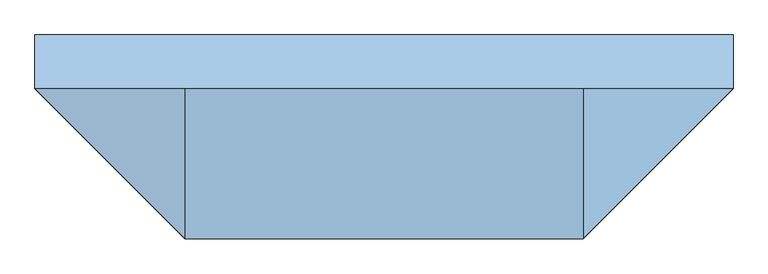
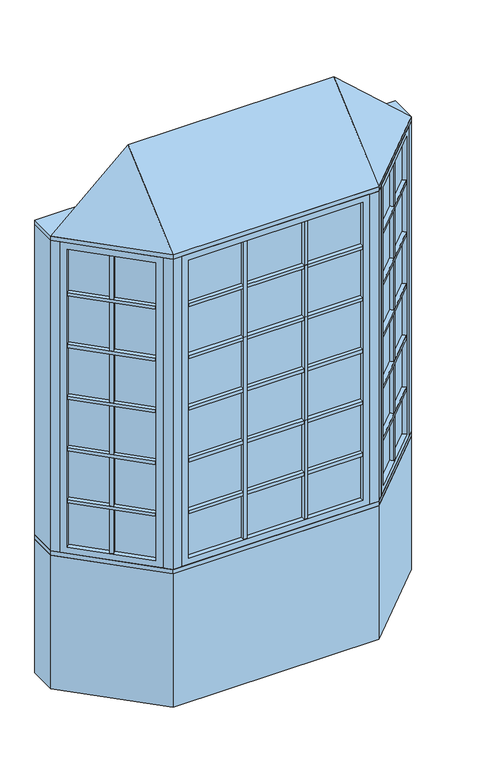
"""IFC4 building model written with IfcOpenShell, lengths in millimetres: window geometry, Pollard_Windows_Tudor Casement Bows and Bays : AML-BAY 45 AFR0518-10-500_GC."""

import ifcopenshell
import ifcopenshell.guid

model = None  # the IFC model being written
_history = None  # IfcOwnerHistory: only IFC2X3 demands one
_inside = {}  # id of a spatial element -> (the spatial element, [elements in it])
_under = {}  # id of a project, library or spatial element -> (it, [spatial elements below it])
_declared = {}  # id of a project -> (the project, [libraries it declares])
_typed = {}  # id of a type object -> (the type object, [elements of that type])
_made_of = {}  # id of a material, layer set ... -> (it, [elements and type objects made of it])


def new_model(schema):
    """Start an empty IFC model of exactly this schema.

    Asked for "IFC4X3", IfcOpenShell would pick the latest addendum, in which some entities
    have other attributes; the version numbers below select the first issue.
    IFC2X3 requires an IfcOwnerHistory on every rooted entity: one is made here for all.
    """
    global model, _history
    if schema == "IFC4X3":
        model = ifcopenshell.file(schema_version=(4, 3, 0, 0))
    else:
        model = ifcopenshell.file(schema=schema)
    _inside.clear()
    _under.clear()
    _declared.clear()
    _typed.clear()
    _made_of.clear()
    _history = None
    if model.schema == "IFC2X3":
        org = make("IfcOrganization", Name="unknown")
        user = make(
            "IfcPersonAndOrganization",
            ThePerson=make("IfcPerson", FamilyName="unknown"),
            TheOrganization=org,
        )
        app = make(
            "IfcApplication",
            ApplicationDeveloper=org,
            Version="unknown",
            ApplicationFullName="unknown",
            ApplicationIdentifier="unknown",
        )
        _history = make(
            "IfcOwnerHistory",
            OwningUser=user,
            OwningApplication=app,
            ChangeAction="ADDED",
            CreationDate=0,
        )
    return model


def make(cls, **values):
    """One entity of the class cls with the attributes given. An attribute that is None is left unset."""
    return model.create_entity(
        cls, **{name: value for name, value in values.items() if value is not None}
    )


def rooted(cls, **values):
    """An entity with a GlobalId (a new one), such as an element, a storey or a relation."""
    return make(cls, GlobalId=ifcopenshell.guid.new(), OwnerHistory=_history, **values)


def si_unit(unit_type, name, prefix=None):
    """IfcSIUnit, for example si_unit("LENGTHUNIT", "METRE", prefix="MILLI")."""
    return make("IfcSIUnit", UnitType=unit_type, Prefix=prefix, Name=name)


def assignment(units):
    """IfcUnitAssignment: the units of a project."""
    return None if units is None else make("IfcUnitAssignment", Units=units)


def point(xyz):
    """IfcCartesianPoint."""
    return None if xyz is None else make("IfcCartesianPoint", Coordinates=xyz)


def direction(xyz):
    """IfcDirection."""
    return None if xyz is None else make("IfcDirection", DirectionRatios=xyz)


def frame(location, z_axis=None, x_axis=None):
    """IfcAxis2Placement3D, a coordinate frame: its origin and axes. An axis left out is left unset."""
    return make(
        "IfcAxis2Placement3D",
        Location=point(location),
        Axis=direction(z_axis),
        RefDirection=direction(x_axis),
    )


def origin():
    """The frame at (0, 0, 0) with its axes left unset."""
    return frame((0.0, 0.0, 0.0))


def origin_with_axes():
    """The frame at (0, 0, 0) with the z axis (0, 0, 1) and the x axis (1, 0, 0) written out."""
    return frame((0.0, 0.0, 0.0), z_axis=(0.0, 0.0, 1.0), x_axis=(1.0, 0.0, 0.0))


def place(relative_to, where):
    """IfcLocalPlacement: puts the frame where relative to a parent placement (None: the world)."""
    return make(
        "IfcLocalPlacement", PlacementRelTo=relative_to, RelativePlacement=where
    )


def context(
    kind, dimensions, precision=None, world=None, true_north=None, identifier=None
):
    """IfcGeometricRepresentationContext, for example the 3D "Model" context."""
    return make(
        "IfcGeometricRepresentationContext",
        ContextIdentifier=identifier,
        ContextType=kind,
        CoordinateSpaceDimension=dimensions,
        Precision=precision,
        WorldCoordinateSystem=world,
        TrueNorth=true_north,
    )


def project(units=None, contexts=None):
    """IfcProject with its units and contexts."""
    return rooted(
        "IfcProject",
        Name="project",
        RepresentationContexts=contexts,
        UnitsInContext=assignment(units),
    )


def spatial(cls, under=None, at=None, **own):
    """A site, building, storey or space (cls), placed at a placement, below another one or the project."""
    s = rooted(cls, ObjectPlacement=at, **own)
    if under is not None:
        _under.setdefault(under.id(), (under, []))[1].append(s)
    return s


def polyline(points):
    """IfcPolyline through the points."""
    return make("IfcPolyline", Points=[point(p) for p in points])


def outline(outer, holes=None, kind="AREA"):
    """IfcArbitraryClosedProfileDef: a profile drawn as a closed curve; with holes, ...WithVoids."""
    if holes is None:
        return make("IfcArbitraryClosedProfileDef", ProfileType=kind, OuterCurve=outer)
    return make(
        "IfcArbitraryProfileDefWithVoids",
        ProfileType=kind,
        OuterCurve=outer,
        InnerCurves=holes,
    )


def extrude(swept, where, along, depth):
    """IfcExtrudedAreaSolid: the profile swept, set in the frame where, extruded along a direction by depth."""
    return make(
        "IfcExtrudedAreaSolid",
        SweptArea=swept,
        Position=where,
        ExtrudedDirection=direction(along),
        Depth=depth,
    )


def faces_of(points, faces, orient=None, outer=None):
    """IfcFace entities. A face is a list of loops; a loop is a list of indices into points, from 0.

    orient and outer hold one flag for each loop. By default every Orientation is true, the
    first loop of a face is its IfcFaceOuterBound and the others are IfcFaceBound.
    """
    made = []
    for i, loops in enumerate(faces):
        bounds = []
        for j, loop in enumerate(loops):
            is_outer = j == 0 if outer is None else outer[i][j]
            bounds.append(
                make(
                    "IfcFaceOuterBound" if is_outer else "IfcFaceBound",
                    Bound=make("IfcPolyLoop", Polygon=[points[k] for k in loop]),
                    Orientation=True if orient is None else orient[i][j],
                )
            )
        made.append(make("IfcFace", Bounds=bounds))
    return made


def faceted_brep(points, faces, orient=None, outer=None, voids=None):
    """IfcFacetedBrep: a solid bounded by flat faces; with voids (closed shells), ...WithVoids."""
    shared = [point(p) for p in points]
    hull = make("IfcClosedShell", CfsFaces=faces_of(shared, faces, orient, outer))
    if voids is None:
        return make("IfcFacetedBrep", Outer=hull)
    return make(
        "IfcFacetedBrepWithVoids",
        Outer=hull,
        Voids=[
            make(cls, CfsFaces=faces_of(shared, fs, o, b)) for cls, fs, o, b in voids
        ],
    )


def shape(context_of_items, identifier, shape_type, items):
    """IfcShapeRepresentation: the items that make up one representation, for example the "Body"."""
    return make(
        "IfcShapeRepresentation",
        ContextOfItems=context_of_items,
        RepresentationIdentifier=identifier,
        RepresentationType=shape_type,
        Items=items,
    )


def source(mapping_origin, context_of_items, identifier, shape_type, items):
    """IfcRepresentationMap: a shape defined once, which mapped items show again and again."""
    return make(
        "IfcRepresentationMap",
        MappingOrigin=mapping_origin,
        MappedRepresentation=shape(context_of_items, identifier, shape_type, items),
    )


def transform(
    local_origin,
    x_axis=None,
    y_axis=None,
    z_axis=None,
    scale=None,
    scale2=None,
    scale3=None,
    uniform=True,
):
    """IfcCartesianTransformationOperator3D, or its non-uniform kind. x_axis, y_axis, z_axis: its Axis1, 2, 3."""
    if uniform:
        return make(
            "IfcCartesianTransformationOperator3D",
            Axis1=direction(x_axis),
            Axis2=direction(y_axis),
            LocalOrigin=point(local_origin),
            Scale=scale,
            Axis3=direction(z_axis),
        )
    return make(
        "IfcCartesianTransformationOperator3DnonUniform",
        Axis1=direction(x_axis),
        Axis2=direction(y_axis),
        LocalOrigin=point(local_origin),
        Scale=scale,
        Axis3=direction(z_axis),
        Scale2=scale2,
        Scale3=scale3,
    )


def mapped(mapping_source, mapping_target):
    """IfcMappedItem: shows the shape of a source again, moved by a transform."""
    return make(
        "IfcMappedItem", MappingSource=mapping_source, MappingTarget=mapping_target
    )


def made_of(thing, what):
    """Note that an element or type object is made of a material, layer set ...; save() writes the relation."""
    if what is not None:
        _made_of.setdefault(what.id(), (what, []))[1].append(thing)
    return thing


def element(
    cls,
    number,
    at=None,
    inside=None,
    cuts=None,
    type_object=None,
    material=None,
    context=None,
    identifier="Body",
    shape_type=None,
    held_by="IfcProductDefinitionShape",
    body=None,
    shapes=None,
    **own,
):
    """One element of the class cls, such as IfcWall. Its Tag is "e" and its number.

    at: its placement. inside: the storey or other place that contains it. cuts: it is an
    opening in that element (IfcRelVoidsElement). A single representation is given by context,
    identifier, shape_type and body (its items); several are given by shapes. held_by: the class
    of the entity that holds the representations. save() writes the other relations.
    """
    e = rooted(cls, Tag="e%d" % number, ObjectPlacement=at, **own)
    if body is not None:
        shapes = [shape(context, identifier, shape_type, body)]
    if shapes is not None:
        e.Representation = make(held_by, Representations=shapes)
    if inside is not None:
        _inside.setdefault(inside.id(), (inside, []))[1].append(e)
    if cuts is not None:
        rooted(
            "IfcRelVoidsElement", RelatingBuildingElement=cuts, RelatedOpeningElement=e
        )
    if type_object is not None:
        _typed.setdefault(type_object.id(), (type_object, []))[1].append(e)
    return made_of(e, material)


def aggregate(whole, parts):
    """IfcRelAggregates: a whole, such as a stair, and the parts it consists of."""
    return rooted("IfcRelAggregates", RelatingObject=whole, RelatedObjects=parts)


def save(model, path):
    """Write the relations noted so far, then the file.

    IfcRelAggregates (storeys below a building ...), IfcRelContainedInSpatialStructure (elements
    in a storey), IfcRelDefinesByType, IfcRelAssociatesMaterial and IfcRelDeclares: one each for
    every whole, place, type object, material and project.
    """
    for whole, parts in _under.values():
        aggregate(whole, parts)
    for where, things in _inside.values():
        rooted(
            "IfcRelContainedInSpatialStructure",
            RelatedElements=things,
            RelatingStructure=where,
        )
    for kind, things in _typed.values():
        rooted("IfcRelDefinesByType", RelatedObjects=things, RelatingType=kind)
    for what, things in _made_of.values():
        rooted("IfcRelAssociatesMaterial", RelatedObjects=things, RelatingMaterial=what)
    for by, libraries in _declared.values():
        rooted("IfcRelDeclares", RelatingContext=by, RelatedDefinitions=libraries)
    model.write(path)


def window_69b66f9a(model_context):
    return source(origin(), model_context, "Body", "SolidModel", [
        extrude(outline(polyline([(622.8614193, -437.1108753), (607.3050701, -421.5545261), (915.116171, -113.7434252), (930.6725202, -129.2997743), (622.8614193, -437.1108753)])), frame((0.0, 0.0, 1690.998), z_axis=(0.0, 0.0, 1.0), x_axis=(1.0, 0.0, 0.0)), (0.0, 0.0, 1.0), 18.0),
        extrude(outline(polyline([(603.7129677, -417.9624236), (588.1566185, -402.4060744), (895.9677194, -94.5949735), (911.5240686, -110.1513227), (603.7129677, -417.9624236)])), frame((0.0, 0.0, 1690.998), z_axis=(0.0, 0.0, 1.0), x_axis=(1.0, 0.0, 0.0)), (0.0, 0.0, 1.0), 18.0),
        extrude(outline(polyline([(622.8614193, -437.1108753), (607.3050701, -421.5545261), (915.116171, -113.7434252), (930.6725202, -129.2997743), (622.8614193, -437.1108753)])), frame((0.0, 0.0, 1090.998), z_axis=(0.0, 0.0, 1.0), x_axis=(1.0, 0.0, 0.0)), (0.0, 0.0, 1.0), 18.0),
        extrude(outline(polyline([(603.7129677, -417.9624236), (588.1566185, -402.4060744), (895.9677194, -94.5949735), (911.5240686, -110.1513227), (603.7129677, -417.9624236)])), frame((0.0, 0.0, 1090.998), z_axis=(0.0, 0.0, 1.0), x_axis=(1.0, 0.0, 0.0)), (0.0, 0.0, 1.0), 18.0),
        extrude(outline(polyline([(622.8614193, -437.1108753), (607.3050701, -421.5545261), (915.116171, -113.7434252), (930.6725202, -129.2997743), (622.8614193, -437.1108753)])), frame((0.0, 0.0, 1390.998), z_axis=(0.0, 0.0, 1.0), x_axis=(1.0, 0.0, 0.0)), (0.0, 0.0, 1.0), 18.0),
        extrude(outline(polyline([(603.7129677, -417.9624236), (588.1566185, -402.4060744), (895.9677194, -94.5949735), (911.5240686, -110.1513227), (603.7129677, -417.9624236)])), frame((0.0, 0.0, 1390.998), z_axis=(0.0, 0.0, 1.0), x_axis=(1.0, 0.0, 0.0)), (0.0, 0.0, 1.0), 18.0),
        extrude(outline(polyline([(622.8614193, -437.1108753), (607.3050701, -421.5545261), (915.116171, -113.7434252), (930.6725202, -129.2997743), (622.8614193, -437.1108753)])), frame((0.0, 0.0, 1990.998), z_axis=(0.0, 0.0, 1.0), x_axis=(1.0, 0.0, 0.0)), (0.0, 0.0, 1.0), 18.0),
        extrude(outline(polyline([(603.7129677, -417.9624236), (588.1566185, -402.4060744), (895.9677194, -94.5949735), (911.5240686, -110.1513227), (603.7129677, -417.9624236)])), frame((0.0, 0.0, 1990.998), z_axis=(0.0, 0.0, 1.0), x_axis=(1.0, 0.0, 0.0)), (0.0, 0.0, 1.0), 18.0),
        extrude(outline(polyline([(622.8614193, -437.1108753), (607.3050701, -421.5545261), (915.116171, -113.7434252), (930.6725202, -129.2997743), (622.8614193, -437.1108753)])), frame((0.0, 0.0, 2290.998), z_axis=(0.0, 0.0, 1.0), x_axis=(1.0, 0.0, 0.0)), (0.0, 0.0, 1.0), 18.0),
        extrude(outline(polyline([(603.7129677, -417.9624236), (588.1566185, -402.4060744), (895.9677194, -94.5949735), (911.5240686, -110.1513227), (603.7129677, -417.9624236)])), frame((0.0, 0.0, 2290.998), z_axis=(0.0, 0.0, 1.0), x_axis=(1.0, 0.0, 0.0)), (0.0, 0.0, 1.0), 18.0),
        extrude(outline(polyline([(767.5745816, -261.2850146), (783.1309308, -276.8413638), (770.4030087, -289.5692858), (754.8466595, -274.0129366), (767.5745816, -261.2850146)])), frame((0.0, 0.0, 835.8628), z_axis=(0.0, 0.0, 1.0), x_axis=(1.0, 0.0, 0.0)), (0.0, 0.0, 1.0), 1728.2704),
        extrude(outline(polyline([(763.9824791, -257.6929121), (751.2545571, -270.4208342), (735.6982079, -254.864485), (748.42613, -242.1365629), (763.9824791, -257.6929121)])), frame((0.0, 0.0, 835.8628), z_axis=(0.0, 0.0, 1.0), x_axis=(1.0, 0.0, 0.0)), (0.0, 0.0, 1.0), 1728.2704),
        extrude(outline(polyline([(924.0964271, -104.763169), (598.324814, -430.5347822), (594.7327115, -426.9426797), (920.5043247, -101.1710666), (924.0964271, -104.763169)])), frame((0.0, 0.0, 823.1628), z_axis=(0.0, 0.0, 1.0), x_axis=(1.0, 0.0, 0.0)), (0.0, 0.0, 1.0), 1753.6704),
        faceted_brep([(915.116171, -113.7434252, 835.8628), (933.0766833, -131.7039374, 835.8628), (933.0766833, -131.7039374, 2564.1332), (915.116171, -113.7434252, 2564.1332), (920.5043247, -101.1710666, 823.1628), (924.0964271, -104.763169, 823.1628), (924.0964271, -104.763169, 2576.8332), (920.5043247, -101.1710666, 2576.8332), (893.5635563, -92.1908105, 835.8628), (911.5240686, -110.1513227, 835.8628), (911.5240686, -110.1513227, 2564.1332), (893.5635563, -92.1908105, 2564.1332), (958.4369265, -106.3436941, 799.998), (918.9237996, -66.8305672, 799.998), (918.9237996, -66.8305672, 2599.998), (958.4369265, -106.3436941, 2599.998), (625.2655823, -439.5150383, 2564.1332), (607.3050701, -421.5545261, 2564.1332), (598.324814, -430.5347822, 2576.8332), (594.7327115, -426.9426797, 2576.8332), (603.7129677, -417.9624236, 2564.1332), (585.7524554, -400.0019114, 2564.1332), (560.3922121, -425.3621547, 2599.998), (599.9053391, -464.8752816, 2599.998), (625.2655823, -439.5150383, 835.8628), (607.3050701, -421.5545261, 835.8628), (598.324814, -430.5347822, 823.1628), (594.7327115, -426.9426797, 823.1628), (603.7129677, -417.9624236, 835.8628), (585.7524554, -400.0019114, 835.8628), (560.3922121, -425.3621547, 799.998), (599.9053391, -464.8752816, 799.998)], [[[0, 1, 2, 3]], [[4, 5, 6, 7]], [[8, 9, 10, 11]], [[12, 13, 14, 15]], [[3, 2, 16, 17]], [[7, 6, 18, 19]], [[11, 10, 20, 21]], [[15, 14, 22, 23]], [[17, 16, 24, 25]], [[19, 18, 26, 27]], [[21, 20, 28, 29]], [[23, 22, 30, 31]], [[25, 24, 1, 0]], [[5, 26, 18, 6], [3, 17, 25, 0]], [[27, 26, 5, 4]], [[7, 19, 27, 4], [9, 28, 20, 10]], [[29, 28, 9, 8]], [[13, 30, 22, 14], [11, 21, 29, 8]], [[31, 30, 13, 12]], [[15, 23, 31, 12], [1, 24, 16, 2]]]),
        extrude(outline(polyline([(175.7952, -474.8306207), (175.7952, -496.8306207), (157.7952, -496.8306207), (157.7952, -474.8306207), (175.7952, -474.8306207)])), frame((0.0, 0.0, 835.8628), z_axis=(0.0, 0.0, 1.0), x_axis=(1.0, 0.0, 0.0)), (0.0, 0.0, 1.0), 1728.2704),
        extrude(outline(polyline([(175.7952, -469.7506207), (157.7952, -469.7506207), (157.7952, -447.7506207), (175.7952, -447.7506207), (175.7952, -469.7506207)])), frame((0.0, 0.0, 835.8628), z_axis=(0.0, 0.0, 1.0), x_axis=(1.0, 0.0, 0.0)), (0.0, 0.0, 1.0), 1728.2704),
        extrude(outline(polyline([(-157.7952, -474.8306207), (-157.7952, -496.8306207), (-175.7952, -496.8306207), (-175.7952, -474.8306207), (-157.7952, -474.8306207)])), frame((0.0, 0.0, 835.8628), z_axis=(0.0, 0.0, 1.0), x_axis=(1.0, 0.0, 0.0)), (0.0, 0.0, 1.0), 1728.2704),
        extrude(outline(polyline([(-157.7952, -469.7506207), (-175.7952, -469.7506207), (-175.7952, -447.7506207), (-157.7952, -447.7506207), (-157.7952, -469.7506207)])), frame((0.0, 0.0, 835.8628), z_axis=(0.0, 0.0, 1.0), x_axis=(1.0, 0.0, 0.0)), (0.0, 0.0, 1.0), 1728.2704),
        extrude(outline(polyline([(-478.6852, -496.8306207), (-478.6852, -474.8306207), (478.6852, -474.8306207), (478.6852, -496.8306207), (-478.6852, -496.8306207)])), frame((0.0, 0.0, 1090.998), z_axis=(0.0, 0.0, 1.0), x_axis=(1.0, 0.0, 0.0)), (0.0, 0.0, 1.0), 18.0),
        extrude(outline(polyline([(-478.6852, -469.7506207), (-478.6852, -447.7506207), (478.6852, -447.7506207), (478.6852, -469.7506207), (-478.6852, -469.7506207)])), frame((0.0, 0.0, 1090.998), z_axis=(0.0, 0.0, 1.0), x_axis=(1.0, 0.0, 0.0)), (0.0, 0.0, 1.0), 18.0),
        extrude(outline(polyline([(-478.6852, -496.8306207), (-478.6852, -474.8306207), (478.6852, -474.8306207), (478.6852, -496.8306207), (-478.6852, -496.8306207)])), frame((0.0, 0.0, 1390.998), z_axis=(0.0, 0.0, 1.0), x_axis=(1.0, 0.0, 0.0)), (0.0, 0.0, 1.0), 18.0),
        extrude(outline(polyline([(-478.6852, -469.7506207), (-478.6852, -447.7506207), (478.6852, -447.7506207), (478.6852, -469.7506207), (-478.6852, -469.7506207)])), frame((0.0, 0.0, 1390.998), z_axis=(0.0, 0.0, 1.0), x_axis=(1.0, 0.0, 0.0)), (0.0, 0.0, 1.0), 18.0),
        extrude(outline(polyline([(-478.6852, -496.8306207), (-478.6852, -474.8306207), (478.6852, -474.8306207), (478.6852, -496.8306207), (-478.6852, -496.8306207)])), frame((0.0, 0.0, 1690.998), z_axis=(0.0, 0.0, 1.0), x_axis=(1.0, 0.0, 0.0)), (0.0, 0.0, 1.0), 18.0),
        extrude(outline(polyline([(-478.6852, -469.7506207), (-478.6852, -447.7506207), (478.6852, -447.7506207), (478.6852, -469.7506207), (-478.6852, -469.7506207)])), frame((0.0, 0.0, 1690.998), z_axis=(0.0, 0.0, 1.0), x_axis=(1.0, 0.0, 0.0)), (0.0, 0.0, 1.0), 18.0),
        extrude(outline(polyline([(-478.6852, -496.8306207), (-478.6852, -474.8306207), (478.6852, -474.8306207), (478.6852, -496.8306207), (-478.6852, -496.8306207)])), frame((0.0, 0.0, 1990.998), z_axis=(0.0, 0.0, 1.0), x_axis=(1.0, 0.0, 0.0)), (0.0, 0.0, 1.0), 18.0),
        extrude(outline(polyline([(-478.6852, -469.7506207), (-478.6852, -447.7506207), (478.6852, -447.7506207), (478.6852, -469.7506207), (-478.6852, -469.7506207)])), frame((0.0, 0.0, 1990.998), z_axis=(0.0, 0.0, 1.0), x_axis=(1.0, 0.0, 0.0)), (0.0, 0.0, 1.0), 18.0),
        extrude(outline(polyline([(-930.6725202, -129.2997743), (-915.116171, -113.7434252), (-607.3050701, -421.5545261), (-622.8614193, -437.1108753), (-930.6725202, -129.2997743)])), frame((0.0, 0.0, 1090.998), z_axis=(0.0, 0.0, 1.0), x_axis=(1.0, 0.0, 0.0)), (0.0, 0.0, 1.0), 18.0),
        extrude(outline(polyline([(-911.5240686, -110.1513227), (-895.9677194, -94.5949735), (-588.1566185, -402.4060744), (-603.7129677, -417.9624236), (-911.5240686, -110.1513227)])), frame((0.0, 0.0, 1090.998), z_axis=(0.0, 0.0, 1.0), x_axis=(1.0, 0.0, 0.0)), (0.0, 0.0, 1.0), 18.0),
        extrude(outline(polyline([(-930.6725202, -129.2997743), (-915.116171, -113.7434252), (-607.3050701, -421.5545261), (-622.8614193, -437.1108753), (-930.6725202, -129.2997743)])), frame((0.0, 0.0, 1390.998), z_axis=(0.0, 0.0, 1.0), x_axis=(1.0, 0.0, 0.0)), (0.0, 0.0, 1.0), 18.0),
        extrude(outline(polyline([(-911.5240686, -110.1513227), (-895.9677194, -94.5949735), (-588.1566185, -402.4060744), (-603.7129677, -417.9624236), (-911.5240686, -110.1513227)])), frame((0.0, 0.0, 1390.998), z_axis=(0.0, 0.0, 1.0), x_axis=(1.0, 0.0, 0.0)), (0.0, 0.0, 1.0), 18.0),
        extrude(outline(polyline([(-930.6725202, -129.2997743), (-915.116171, -113.7434252), (-607.3050701, -421.5545261), (-622.8614193, -437.1108753), (-930.6725202, -129.2997743)])), frame((0.0, 0.0, 1690.998), z_axis=(0.0, 0.0, 1.0), x_axis=(1.0, 0.0, 0.0)), (0.0, 0.0, 1.0), 18.0),
        extrude(outline(polyline([(-911.5240686, -110.1513227), (-895.9677194, -94.5949735), (-588.1566185, -402.4060744), (-603.7129677, -417.9624236), (-911.5240686, -110.1513227)])), frame((0.0, 0.0, 1690.998), z_axis=(0.0, 0.0, 1.0), x_axis=(1.0, 0.0, 0.0)), (0.0, 0.0, 1.0), 18.0),
        extrude(outline(polyline([(-930.6725202, -129.2997743), (-915.116171, -113.7434252), (-607.3050701, -421.5545261), (-622.8614193, -437.1108753), (-930.6725202, -129.2997743)])), frame((0.0, 0.0, 1990.998), z_axis=(0.0, 0.0, 1.0), x_axis=(1.0, 0.0, 0.0)), (0.0, 0.0, 1.0), 18.0),
        extrude(outline(polyline([(-911.5240686, -110.1513227), (-895.9677194, -94.5949735), (-588.1566185, -402.4060744), (-603.7129677, -417.9624236), (-911.5240686, -110.1513227)])), frame((0.0, 0.0, 1990.998), z_axis=(0.0, 0.0, 1.0), x_axis=(1.0, 0.0, 0.0)), (0.0, 0.0, 1.0), 18.0),
        extrude(outline(polyline([(-930.6725202, -129.2997743), (-915.116171, -113.7434252), (-607.3050701, -421.5545261), (-622.8614193, -437.1108753), (-930.6725202, -129.2997743)])), frame((0.0, 0.0, 2290.998), z_axis=(0.0, 0.0, 1.0), x_axis=(1.0, 0.0, 0.0)), (0.0, 0.0, 1.0), 18.0),
        extrude(outline(polyline([(-911.5240686, -110.1513227), (-895.9677194, -94.5949735), (-588.1566185, -402.4060744), (-603.7129677, -417.9624236), (-911.5240686, -110.1513227)])), frame((0.0, 0.0, 2290.998), z_axis=(0.0, 0.0, 1.0), x_axis=(1.0, 0.0, 0.0)), (0.0, 0.0, 1.0), 18.0),
        extrude(outline(polyline([(-478.6852, -496.8306207), (-478.6852, -474.8306207), (478.6852, -474.8306207), (478.6852, -496.8306207), (-478.6852, -496.8306207)])), frame((0.0, 0.0, 2290.998), z_axis=(0.0, 0.0, 1.0), x_axis=(1.0, 0.0, 0.0)), (0.0, 0.0, 1.0), 18.0),
        extrude(outline(polyline([(-478.6852, -469.7506207), (-478.6852, -447.7506207), (478.6852, -447.7506207), (478.6852, -469.7506207), (-478.6852, -469.7506207)])), frame((0.0, 0.0, 2290.998), z_axis=(0.0, 0.0, 1.0), x_axis=(1.0, 0.0, 0.0)), (0.0, 0.0, 1.0), 18.0),
        extrude(outline(polyline([(-754.8466595, -274.0129366), (-770.4030087, -289.5692858), (-783.1309308, -276.8413638), (-767.5745816, -261.2850146), (-754.8466595, -274.0129366)])), frame((0.0, 0.0, 835.8628), z_axis=(0.0, 0.0, 1.0), x_axis=(1.0, 0.0, 0.0)), (0.0, 0.0, 1.0), 1728.2704),
        extrude(outline(polyline([(-751.2545571, -270.4208342), (-763.9824791, -257.6929121), (-748.42613, -242.1365629), (-735.6982079, -254.864485), (-751.2545571, -270.4208342)])), frame((0.0, 0.0, 835.8628), z_axis=(0.0, 0.0, 1.0), x_axis=(1.0, 0.0, 0.0)), (0.0, 0.0, 1.0), 1728.2704),
        extrude(outline(polyline([(-598.324814, -430.5347822), (-924.0964271, -104.763169), (-920.5043247, -101.1710666), (-594.7327115, -426.9426797), (-598.324814, -430.5347822)])), frame((0.0, 0.0, 823.1628), z_axis=(0.0, 0.0, 1.0), x_axis=(1.0, 0.0, 0.0)), (0.0, 0.0, 1.0), 1753.6704),
        faceted_brep([(-603.7129677, -417.9624236, 2564.1332), (-585.7524554, -400.0019114, 2564.1332), (-585.7524554, -400.0019114, 835.8628), (-603.7129677, -417.9624236, 835.8628), (-598.324814, -430.5347822, 2576.8332), (-594.7327115, -426.9426797, 2576.8332), (-594.7327115, -426.9426797, 823.1628), (-598.324814, -430.5347822, 823.1628), (-625.2655823, -439.5150383, 2564.1332), (-607.3050701, -421.5545261, 2564.1332), (-607.3050701, -421.5545261, 835.8628), (-625.2655823, -439.5150383, 835.8628), (-560.3922121, -425.3621547, 2599.998), (-599.9053391, -464.8752816, 2599.998), (-599.9053391, -464.8752816, 799.998), (-560.3922121, -425.3621547, 799.998), (-893.5635563, -92.1908105, 835.8628), (-911.5240686, -110.1513227, 835.8628), (-920.5043247, -101.1710666, 823.1628), (-924.0964271, -104.763169, 823.1628), (-915.116171, -113.7434252, 835.8628), (-933.0766833, -131.7039374, 835.8628), (-958.4369265, -106.3436941, 799.998), (-918.9237996, -66.8305672, 799.998), (-893.5635563, -92.1908105, 2564.1332), (-911.5240686, -110.1513227, 2564.1332), (-920.5043247, -101.1710666, 2576.8332), (-924.0964271, -104.763169, 2576.8332), (-915.116171, -113.7434252, 2564.1332), (-933.0766833, -131.7039374, 2564.1332), (-958.4369265, -106.3436941, 2599.998), (-918.9237996, -66.8305672, 2599.998)], [[[0, 1, 2, 3]], [[4, 5, 6, 7]], [[8, 9, 10, 11]], [[12, 13, 14, 15]], [[3, 2, 16, 17]], [[7, 6, 18, 19]], [[11, 10, 20, 21]], [[15, 14, 22, 23]], [[17, 16, 24, 25]], [[19, 18, 26, 27]], [[21, 20, 28, 29]], [[23, 22, 30, 31]], [[15, 23, 31, 12], [1, 24, 16, 2]], [[25, 24, 1, 0]], [[5, 26, 18, 6], [3, 17, 25, 0]], [[27, 26, 5, 4]], [[7, 19, 27, 4], [9, 28, 20, 10]], [[29, 28, 9, 8]], [[13, 30, 22, 14], [11, 21, 29, 8]], [[31, 30, 13, 12]]]),
        extrude(outline(polyline([(491.3852, -474.8306207), (-491.3852, -474.8306207), (-491.3852, -469.7506207), (491.3852, -469.7506207), (491.3852, -474.8306207)])), frame((0.0, 0.0, 823.1628), z_axis=(0.0, 0.0, 1.0), x_axis=(1.0, 0.0, 0.0)), (0.0, 0.0, 1.0), 1753.6704),
        faceted_brep([(478.6852, -474.8306207, 835.8628), (478.6852, -500.2306207, 835.8628), (478.6852, -500.2306207, 2564.1332), (478.6852, -474.8306207, 2564.1332), (491.3852, -469.7506207, 823.1628), (491.3852, -474.8306207, 823.1628), (491.3852, -474.8306207, 2576.8332), (491.3852, -469.7506207, 2576.8332), (478.6852, -444.3506207, 835.8628), (478.6852, -469.7506207, 835.8628), (478.6852, -469.7506207, 2564.1332), (478.6852, -444.3506207, 2564.1332), (514.55, -500.2306207, 799.998), (514.55, -444.3506207, 799.998), (514.55, -444.3506207, 2599.998), (514.55, -500.2306207, 2599.998), (-478.6852, -500.2306207, 2564.1332), (-478.6852, -474.8306207, 2564.1332), (-491.3852, -474.8306207, 2576.8332), (-491.3852, -469.7506207, 2576.8332), (-478.6852, -469.7506207, 2564.1332), (-478.6852, -444.3506207, 2564.1332), (-514.55, -444.3506207, 2599.998), (-514.55, -500.2306207, 2599.998), (-478.6852, -500.2306207, 835.8628), (-478.6852, -474.8306207, 835.8628), (-491.3852, -474.8306207, 823.1628), (-491.3852, -469.7506207, 823.1628), (-478.6852, -469.7506207, 835.8628), (-478.6852, -444.3506207, 835.8628), (-514.55, -444.3506207, 799.998), (-514.55, -500.2306207, 799.998)], [[[0, 1, 2, 3]], [[4, 5, 6, 7]], [[8, 9, 10, 11]], [[12, 13, 14, 15]], [[3, 2, 16, 17]], [[7, 6, 18, 19]], [[11, 10, 20, 21]], [[15, 14, 22, 23]], [[17, 16, 24, 25]], [[19, 18, 26, 27]], [[21, 20, 28, 29]], [[23, 22, 30, 31]], [[15, 23, 31, 12], [1, 24, 16, 2]], [[25, 24, 1, 0]], [[5, 26, 18, 6], [3, 17, 25, 0]], [[27, 26, 5, 4]], [[7, 19, 27, 4], [9, 28, 20, 10]], [[29, 28, 9, 8]], [[13, 30, 22, 14], [11, 21, 29, 8]], [[31, 30, 13, 12]]]),
        faceted_brep([(990.0, -74.7806207, 2625.398), (564.55, -500.2306207, 2625.398), (-564.55, -500.2306207, 2625.398), (-990.0, -74.7806207, 2625.398), (-564.55, -74.7806207, 3006.398), (564.55, -74.7806207, 3006.398)], [[[0, 1, 2, 3]], [[3, 2, 4]], [[2, 1, 5, 4]], [[1, 0, 5]], [[0, 3, 4, 5]]]),
        extrude(outline(polyline([(-990.0, 77.6193793), (990.0, 77.6193793), (990.0, -74.7806207), (564.55, -500.2306207), (-564.55, -500.2306207), (-990.0, -74.7806207), (-990.0, 77.6193793)])), frame((0.0, 0.0, 2599.998), z_axis=(0.0, 0.0, 1.0), x_axis=(1.0, 0.0, 0.0)), (0.0, 0.0, 1.0), 25.4),
        extrude(outline(polyline([(-990.0, -74.7806207), (-990.0, 77.6193793), (-926.8738531, 77.6193793), (-926.8738531, -74.7806207), (-958.4369265, -106.3436941), (-990.0, -74.7806207)])), frame((0.0, 0.0, 799.998), z_axis=(0.0, 0.0, 1.0), x_axis=(1.0, 0.0, 0.0)), (0.0, 0.0, 1.0), 1800.0),
        extrude(outline(polyline([(990.0, 77.6193793), (990.0, -74.7806207), (958.4369265, -106.3436941), (926.8738531, -74.7806207), (926.8738531, 77.6193793), (990.0, 77.6193793)])), frame((0.0, 0.0, 799.998), z_axis=(0.0, 0.0, 1.0), x_axis=(1.0, 0.0, 0.0)), (0.0, 0.0, 1.0), 1800.0),
        extrude(outline(polyline([(564.55, -500.2306207), (514.55, -500.2306207), (514.55, -450.2306207), (543.8393219, -450.2306207), (564.55, -429.5199425), (599.9053391, -464.8752816), (564.55, -500.2306207)])), frame((0.0, 0.0, 799.998), z_axis=(0.0, 0.0, 1.0), x_axis=(1.0, 0.0, 0.0)), (0.0, 0.0, 1.0), 1800.0),
        extrude(outline(polyline([(-564.55, -500.2306207), (-599.9053391, -464.8752816), (-564.55, -429.5199425), (-543.8393219, -450.2306207), (-514.55, -450.2306207), (-514.55, -500.2306207), (-564.55, -500.2306207)])), frame((0.0, 0.0, 799.998), z_axis=(0.0, 0.0, 1.0), x_axis=(1.0, 0.0, 0.0)), (0.0, 0.0, 1.0), 1800.0),
        extrude(outline(polyline([(-564.55, -500.2306207), (-990.0, -74.7806207), (-990.0, 77.6193793), (-926.8738531, 77.6193793), (-501.4238531, -347.8306207), (501.4238531, -347.8306207), (926.8738531, 77.6193793), (990.0, 77.6193793), (990.0, -74.7806207), (564.55, -500.2306207), (-564.55, -500.2306207)])), frame((0.0, 0.0, 774.598), z_axis=(0.0, 0.0, 1.0), x_axis=(1.0, 0.0, 0.0)), (0.0, 0.0, 1.0), 25.4),
        extrude(outline(polyline([(-990.0, -74.7806207), (-990.0, 77.6193793), (-926.8738531, 77.6193793), (-501.4238531, -347.8306207), (501.4238531, -347.8306207), (926.8738531, 77.6193793), (990.0, 77.6193793), (990.0, -74.7806207), (564.55, -500.2306207), (-564.55, -500.2306207), (-990.0, -74.7806207)])), origin_with_axes(), (0.0, 0.0, 1.0), 774.598),
    ])


if __name__ == "__main__":
    model = new_model("IFC4")
    model_context = context("Model", 3, world=origin())
    ifc_project = project(units=[si_unit("LENGTHUNIT", "METRE", prefix="MILLI")], contexts=[model_context])
    site = spatial("IfcSite", under=ifc_project)
    building = spatial("IfcBuilding", under=site)
    placement = place(None, origin())
    window_shape = window_69b66f9a(model_context)
    element("IfcWindow", 1, ObjectType="Pollard_Windows_Tudor Casement Bows and Bays : AML-BAY 45 AFR0518-10-500_GC", at=placement, inside=building, context=model_context, shape_type="MappedRepresentation", body=[
        mapped(window_shape, transform((0.0, 0.0, 0.0), x_axis=(1.0, 0.0, 0.0), y_axis=(0.0, 1.0, 0.0), z_axis=(0.0, 0.0, 1.0))),
    ])
    save(model, "model.ifc")
